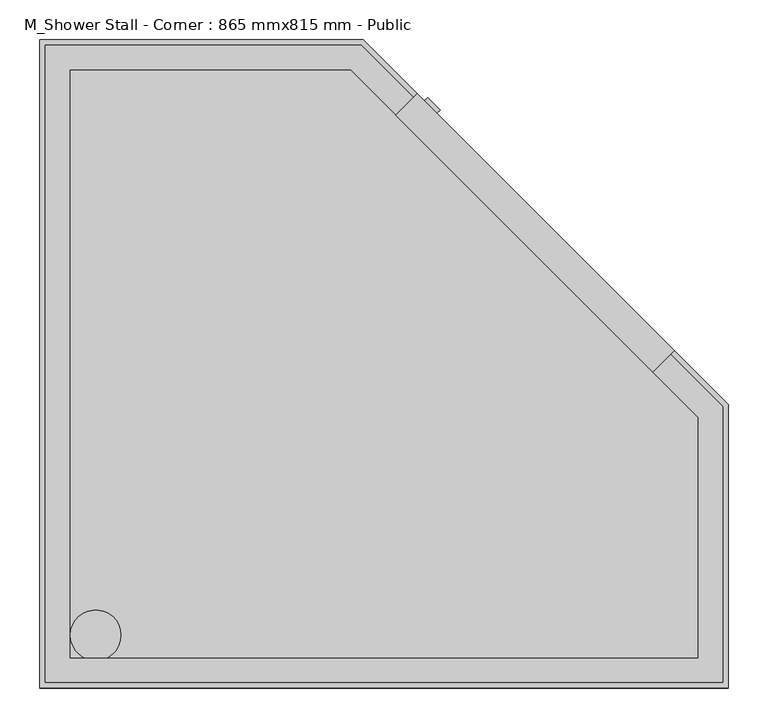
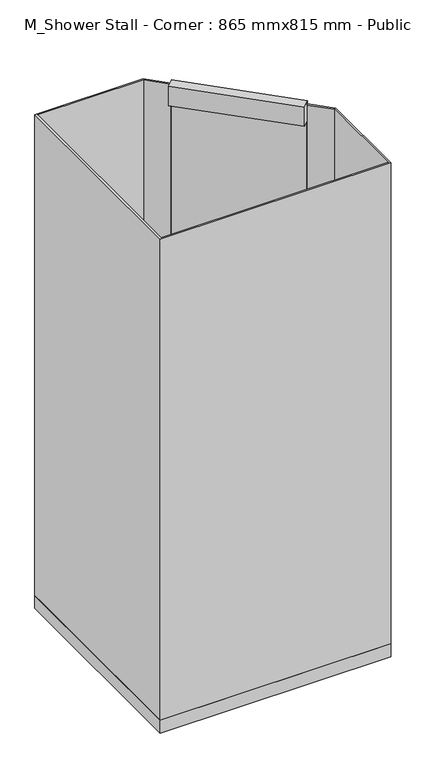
"""IFC4 building model written with IfcOpenShell, lengths in millimetres: flow terminal geometry, M_Shower Stall - Corner : 865 mmx815 mm - Public."""

import ifcopenshell
import ifcopenshell.guid

model = None  # the IFC model being written
_history = None  # IfcOwnerHistory: only IFC2X3 demands one
_inside = {}  # id of a spatial element -> (the spatial element, [elements in it])
_under = {}  # id of a project, library or spatial element -> (it, [spatial elements below it])
_declared = {}  # id of a project -> (the project, [libraries it declares])
_typed = {}  # id of a type object -> (the type object, [elements of that type])
_made_of = {}  # id of a material, layer set ... -> (it, [elements and type objects made of it])


def new_model(schema):
    """Start an empty IFC model of exactly this schema.

    Asked for "IFC4X3", IfcOpenShell would pick the latest addendum, in which some entities
    have other attributes; the version numbers below select the first issue.
    IFC2X3 requires an IfcOwnerHistory on every rooted entity: one is made here for all.
    """
    global model, _history
    if schema == "IFC4X3":
        model = ifcopenshell.file(schema_version=(4, 3, 0, 0))
    else:
        model = ifcopenshell.file(schema=schema)
    _inside.clear()
    _under.clear()
    _declared.clear()
    _typed.clear()
    _made_of.clear()
    _history = None
    if model.schema == "IFC2X3":
        org = make("IfcOrganization", Name="unknown")
        user = make(
            "IfcPersonAndOrganization",
            ThePerson=make("IfcPerson", FamilyName="unknown"),
            TheOrganization=org,
        )
        app = make(
            "IfcApplication",
            ApplicationDeveloper=org,
            Version="unknown",
            ApplicationFullName="unknown",
            ApplicationIdentifier="unknown",
        )
        _history = make(
            "IfcOwnerHistory",
            OwningUser=user,
            OwningApplication=app,
            ChangeAction="ADDED",
            CreationDate=0,
        )
    return model


def make(cls, **values):
    """One entity of the class cls with the attributes given. An attribute that is None is left unset."""
    return model.create_entity(
        cls, **{name: value for name, value in values.items() if value is not None}
    )


def rooted(cls, **values):
    """An entity with a GlobalId (a new one), such as an element, a storey or a relation."""
    return make(cls, GlobalId=ifcopenshell.guid.new(), OwnerHistory=_history, **values)


def si_unit(unit_type, name, prefix=None):
    """IfcSIUnit, for example si_unit("LENGTHUNIT", "METRE", prefix="MILLI")."""
    return make("IfcSIUnit", UnitType=unit_type, Prefix=prefix, Name=name)


def assignment(units):
    """IfcUnitAssignment: the units of a project."""
    return None if units is None else make("IfcUnitAssignment", Units=units)


def point(xyz):
    """IfcCartesianPoint."""
    return None if xyz is None else make("IfcCartesianPoint", Coordinates=xyz)


def direction(xyz):
    """IfcDirection."""
    return None if xyz is None else make("IfcDirection", DirectionRatios=xyz)


def frame(location, z_axis=None, x_axis=None):
    """IfcAxis2Placement3D, a coordinate frame: its origin and axes. An axis left out is left unset."""
    return make(
        "IfcAxis2Placement3D",
        Location=point(location),
        Axis=direction(z_axis),
        RefDirection=direction(x_axis),
    )


def frame_2d(location, x_axis=None):
    """IfcAxis2Placement2D, a coordinate frame in the plane: its origin and x axis."""
    return make(
        "IfcAxis2Placement2D", Location=point(location), RefDirection=direction(x_axis)
    )


def origin():
    """The frame at (0, 0, 0) with its axes left unset."""
    return frame((0.0, 0.0, 0.0))


def origin_with_axes():
    """The frame at (0, 0, 0) with the z axis (0, 0, 1) and the x axis (1, 0, 0) written out."""
    return frame((0.0, 0.0, 0.0), z_axis=(0.0, 0.0, 1.0), x_axis=(1.0, 0.0, 0.0))


def place(relative_to, where):
    """IfcLocalPlacement: puts the frame where relative to a parent placement (None: the world)."""
    return make(
        "IfcLocalPlacement", PlacementRelTo=relative_to, RelativePlacement=where
    )


def context(
    kind, dimensions, precision=None, world=None, true_north=None, identifier=None
):
    """IfcGeometricRepresentationContext, for example the 3D "Model" context."""
    return make(
        "IfcGeometricRepresentationContext",
        ContextIdentifier=identifier,
        ContextType=kind,
        CoordinateSpaceDimension=dimensions,
        Precision=precision,
        WorldCoordinateSystem=world,
        TrueNorth=true_north,
    )


def project(units=None, contexts=None):
    """IfcProject with its units and contexts."""
    return rooted(
        "IfcProject",
        Name="project",
        RepresentationContexts=contexts,
        UnitsInContext=assignment(units),
    )


def spatial(cls, under=None, at=None, **own):
    """A site, building, storey or space (cls), placed at a placement, below another one or the project."""
    s = rooted(cls, ObjectPlacement=at, **own)
    if under is not None:
        _under.setdefault(under.id(), (under, []))[1].append(s)
    return s


def polyline(points):
    """IfcPolyline through the points."""
    return make("IfcPolyline", Points=[point(p) for p in points])


def circle_curve(where, radius):
    """IfcCircle in the frame where."""
    return make("IfcCircle", Position=where, Radius=radius)


def trimmed(basis, trim1, trim2, sense, master):
    """IfcTrimmedCurve: the piece of a basis curve between two trims."""
    return make(
        "IfcTrimmedCurve",
        BasisCurve=basis,
        Trim1=trim1,
        Trim2=trim2,
        SenseAgreement=sense,
        MasterRepresentation=master,
    )


def segment(curve, same_sense, transition):
    """IfcCompositeCurveSegment."""
    return make(
        "IfcCompositeCurveSegment",
        Transition=transition,
        SameSense=same_sense,
        ParentCurve=curve,
    )


def composite_curve(segments, self_intersect=None):
    """IfcCompositeCurve: segments joined end to end."""
    return make("IfcCompositeCurve", Segments=segments, SelfIntersect=self_intersect)


def outline(outer, holes=None, kind="AREA"):
    """IfcArbitraryClosedProfileDef: a profile drawn as a closed curve; with holes, ...WithVoids."""
    if holes is None:
        return make("IfcArbitraryClosedProfileDef", ProfileType=kind, OuterCurve=outer)
    return make(
        "IfcArbitraryProfileDefWithVoids",
        ProfileType=kind,
        OuterCurve=outer,
        InnerCurves=holes,
    )


def extrude(swept, where, along, depth):
    """IfcExtrudedAreaSolid: the profile swept, set in the frame where, extruded along a direction by depth."""
    return make(
        "IfcExtrudedAreaSolid",
        SweptArea=swept,
        Position=where,
        ExtrudedDirection=direction(along),
        Depth=depth,
    )


def faces_of(points, faces, orient=None, outer=None):
    """IfcFace entities. A face is a list of loops; a loop is a list of indices into points, from 0.

    orient and outer hold one flag for each loop. By default every Orientation is true, the
    first loop of a face is its IfcFaceOuterBound and the others are IfcFaceBound.
    """
    made = []
    for i, loops in enumerate(faces):
        bounds = []
        for j, loop in enumerate(loops):
            is_outer = j == 0 if outer is None else outer[i][j]
            bounds.append(
                make(
                    "IfcFaceOuterBound" if is_outer else "IfcFaceBound",
                    Bound=make("IfcPolyLoop", Polygon=[points[k] for k in loop]),
                    Orientation=True if orient is None else orient[i][j],
                )
            )
        made.append(make("IfcFace", Bounds=bounds))
    return made


def faceted_brep(points, faces, orient=None, outer=None, voids=None):
    """IfcFacetedBrep: a solid bounded by flat faces; with voids (closed shells), ...WithVoids."""
    shared = [point(p) for p in points]
    hull = make("IfcClosedShell", CfsFaces=faces_of(shared, faces, orient, outer))
    if voids is None:
        return make("IfcFacetedBrep", Outer=hull)
    return make(
        "IfcFacetedBrepWithVoids",
        Outer=hull,
        Voids=[
            make(cls, CfsFaces=faces_of(shared, fs, o, b)) for cls, fs, o, b in voids
        ],
    )


def shape(context_of_items, identifier, shape_type, items):
    """IfcShapeRepresentation: the items that make up one representation, for example the "Body"."""
    return make(
        "IfcShapeRepresentation",
        ContextOfItems=context_of_items,
        RepresentationIdentifier=identifier,
        RepresentationType=shape_type,
        Items=items,
    )


def source(mapping_origin, context_of_items, identifier, shape_type, items):
    """IfcRepresentationMap: a shape defined once, which mapped items show again and again."""
    return make(
        "IfcRepresentationMap",
        MappingOrigin=mapping_origin,
        MappedRepresentation=shape(context_of_items, identifier, shape_type, items),
    )


def transform(
    local_origin,
    x_axis=None,
    y_axis=None,
    z_axis=None,
    scale=None,
    scale2=None,
    scale3=None,
    uniform=True,
):
    """IfcCartesianTransformationOperator3D, or its non-uniform kind. x_axis, y_axis, z_axis: its Axis1, 2, 3."""
    if uniform:
        return make(
            "IfcCartesianTransformationOperator3D",
            Axis1=direction(x_axis),
            Axis2=direction(y_axis),
            LocalOrigin=point(local_origin),
            Scale=scale,
            Axis3=direction(z_axis),
        )
    return make(
        "IfcCartesianTransformationOperator3DnonUniform",
        Axis1=direction(x_axis),
        Axis2=direction(y_axis),
        LocalOrigin=point(local_origin),
        Scale=scale,
        Axis3=direction(z_axis),
        Scale2=scale2,
        Scale3=scale3,
    )


def mapped(mapping_source, mapping_target):
    """IfcMappedItem: shows the shape of a source again, moved by a transform."""
    return make(
        "IfcMappedItem", MappingSource=mapping_source, MappingTarget=mapping_target
    )


def made_of(thing, what):
    """Note that an element or type object is made of a material, layer set ...; save() writes the relation."""
    if what is not None:
        _made_of.setdefault(what.id(), (what, []))[1].append(thing)
    return thing


def element(
    cls,
    number,
    at=None,
    inside=None,
    cuts=None,
    type_object=None,
    material=None,
    context=None,
    identifier="Body",
    shape_type=None,
    held_by="IfcProductDefinitionShape",
    body=None,
    shapes=None,
    **own,
):
    """One element of the class cls, such as IfcWall. Its Tag is "e" and its number.

    at: its placement. inside: the storey or other place that contains it. cuts: it is an
    opening in that element (IfcRelVoidsElement). A single representation is given by context,
    identifier, shape_type and body (its items); several are given by shapes. held_by: the class
    of the entity that holds the representations. save() writes the other relations.
    """
    e = rooted(cls, Tag="e%d" % number, ObjectPlacement=at, **own)
    if body is not None:
        shapes = [shape(context, identifier, shape_type, body)]
    if shapes is not None:
        e.Representation = make(held_by, Representations=shapes)
    if inside is not None:
        _inside.setdefault(inside.id(), (inside, []))[1].append(e)
    if cuts is not None:
        rooted(
            "IfcRelVoidsElement", RelatingBuildingElement=cuts, RelatedOpeningElement=e
        )
    if type_object is not None:
        _typed.setdefault(type_object.id(), (type_object, []))[1].append(e)
    return made_of(e, material)


def aggregate(whole, parts):
    """IfcRelAggregates: a whole, such as a stair, and the parts it consists of."""
    return rooted("IfcRelAggregates", RelatingObject=whole, RelatedObjects=parts)


def save(model, path):
    """Write the relations noted so far, then the file.

    IfcRelAggregates (storeys below a building ...), IfcRelContainedInSpatialStructure (elements
    in a storey), IfcRelDefinesByType, IfcRelAssociatesMaterial and IfcRelDeclares: one each for
    every whole, place, type object, material and project.
    """
    for whole, parts in _under.values():
        aggregate(whole, parts)
    for where, things in _inside.values():
        rooted(
            "IfcRelContainedInSpatialStructure",
            RelatedElements=things,
            RelatingStructure=where,
        )
    for kind, things in _typed.values():
        rooted("IfcRelDefinesByType", RelatedObjects=things, RelatingType=kind)
    for what, things in _made_of.values():
        rooted("IfcRelAssociatesMaterial", RelatedObjects=things, RelatingMaterial=what)
    for by, libraries in _declared.values():
        rooted("IfcRelDeclares", RelatingContext=by, RelatedDefinitions=libraries)
    model.write(path)


def m_shower_stall_corner_865_mmx815_mm_public_7cb0cf18(model_context):
    return source(origin(), model_context, "Body", "SolidModel", [
        extrude(outline(composite_curve([segment(trimmed(circle_curve(frame_2d((70.2391105, 66.6114344)), 31.75), [point((38.4891105, 66.6114344))], [point((101.9891105, 66.6114344))], False, "CARTESIAN"), True, "CONTINUOUS"), segment(trimmed(circle_curve(frame_2d((70.2391105, 66.6114344)), 31.75), [point((101.9891105, 66.6114344))], [point((38.4891105, 66.6114344))], False, "CARTESIAN"), True, "CONTINUOUS")], self_intersect=False)), origin_with_axes(), (0.0, 0.0, 1.0), 38.1),
        faceted_brep([(0.0, 0.0, 50.8), (865.0, 0.0, 50.8), (865.0, 356.4, 50.8), (406.4, 815.0, 50.8), (0.0, 815.0, 50.8), (826.9, 38.1, 50.8), (38.1, 38.1, 50.8), (38.1, 776.9, 50.8), (390.6184633, 776.9, 50.8), (826.9, 340.6184633, 50.8), (0.0, 0.0, 0.0), (0.0, 815.0, 0.0), (406.4, 815.0, 0.0), (865.0, 356.4, 0.0), (865.0, 0.0, 0.0), (38.1, 38.1, 38.1), (826.9, 38.1, 38.1), (826.9, 340.6184633, 38.1), (390.6184633, 776.9, 38.1), (38.1, 776.9, 38.1)], [[[0, 1, 2, 3, 4], [5, 6, 7, 8, 9]], [[10, 11, 12, 13, 14]], [[1, 0, 10, 14]], [[2, 1, 14, 13]], [[3, 2, 13, 12]], [[4, 3, 12, 11]], [[0, 4, 11, 10]], [[15, 16, 17, 18, 19]], [[16, 15, 6, 5]], [[17, 16, 5, 9]], [[18, 17, 9, 8]], [[19, 18, 8, 7]], [[15, 19, 7, 6]]]),
        extrude(outline(polyline([(406.4, 815.0), (474.1261005, 747.2738995), (469.6359724, 742.7837714), (403.7697439, 808.65), (6.35, 808.65), (6.35, 6.35), (858.65, 6.35), (858.65, 353.7697439), (792.7837714, 419.6359724), (797.2738995, 424.1261005), (865.0, 356.4), (865.0, 0.0), (0.0, 0.0), (0.0, 815.0), (406.4, 815.0)])), frame((0.0, 0.0, 50.8), z_axis=(0.0, 0.0, 1.0), x_axis=(1.0, 0.0, 0.0)), (0.0, 0.0, 1.0), 1905.2),
        extrude(outline(polyline([(487.2512061, 742.4384928), (502.9666543, 726.7230446), (498.8218048, 722.5781952), (483.1063566, 738.2936434), (487.2512061, 742.4384928)])), frame((0.0, 0.0, 882.05), z_axis=(0.0, 0.0, 1.0), x_axis=(1.0, 0.0, 0.0)), (0.0, 0.0, 1.0), 107.95),
        extrude(outline(polyline([(474.1261005, 747.2738995), (797.2738995, 424.1261005), (770.3331311, 397.1853321), (447.1853321, 720.3331311), (474.1261005, 747.2738995)])), frame((0.0, 0.0, 1892.5), z_axis=(0.0, 0.0, 1.0), x_axis=(1.0, 0.0, 0.0)), (0.0, 0.0, 1.0), 76.2),
        extrude(outline(polyline([(469.6359724, 742.7837714), (474.1261005, 747.2738995), (797.2738995, 424.1261005), (792.7837714, 419.6359724), (469.6359724, 742.7837714)])), frame((0.0, 0.0, 50.8), z_axis=(0.0, 0.0, 1.0), x_axis=(1.0, 0.0, 0.0)), (0.0, 0.0, 1.0), 1841.7),
    ])


if __name__ == "__main__":
    model = new_model("IFC4")
    model_context = context("Model", 3, world=origin())
    ifc_project = project(units=[si_unit("LENGTHUNIT", "METRE", prefix="MILLI")], contexts=[model_context])
    site = spatial("IfcSite", under=ifc_project)
    building = spatial("IfcBuilding", under=site)
    placement = place(None, origin())
    m_shower_stall_corner_865_mmx815_mm_public_shape = m_shower_stall_corner_865_mmx815_mm_public_7cb0cf18(model_context)
    element("IfcFlowTerminal", 1, ObjectType="M_Shower Stall - Corner : 865 mmx815 mm - Public", at=placement, inside=building, context=model_context, shape_type="MappedRepresentation", body=[
        mapped(m_shower_stall_corner_865_mmx815_mm_public_shape, transform((0.0, 0.0, 0.0), x_axis=(1.0, 0.0, 0.0), y_axis=(0.0, 1.0, 0.0), z_axis=(0.0, 0.0, 1.0))),
    ])
    save(model, "model.ifc")
